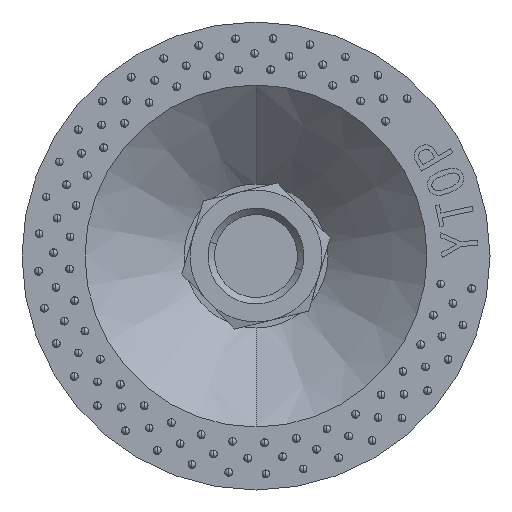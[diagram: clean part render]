
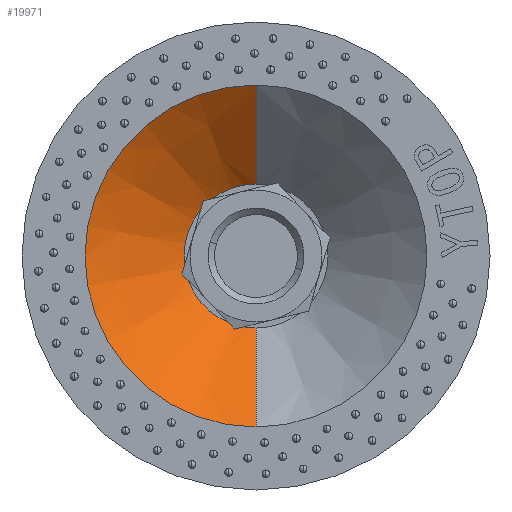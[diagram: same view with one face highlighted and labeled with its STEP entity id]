
A CAD part, front view. The second image highlights one B-rep face of the part: STEP entity #19971.
In plain terms, the highlighted conical face has half-angle 49.079 degrees and reference radius 28.5 mm.
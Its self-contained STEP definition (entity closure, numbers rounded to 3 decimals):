
#63 = VECTOR ( 'NONE', #19514, 1000. ) ;
#176 = VERTEX_POINT ( 'NONE', #20782 ) ;
#1049 = EDGE_CURVE ( 'NONE', #2098, #11898, #10328, .T. ) ;
#2098 = VERTEX_POINT ( 'NONE', #8795 ) ;
#3441 = DIRECTION ( 'NONE',  ( 0., 0., -1. ) ) ;
#3760 = DIRECTION ( 'NONE',  ( 0., 1., 0. ) ) ;
#4547 = ORIENTED_EDGE ( 'NONE', *, *, #13815, .T. ) ;
#4997 = DIRECTION ( 'NONE',  ( 0., -1., 0. ) ) ;
#6059 = CARTESIAN_POINT ( 'NONE',  ( 0., 19.9, 12. ) ) ;
#6289 = CARTESIAN_POINT ( 'NONE',  ( 0., 5.597, 28.5 ) ) ;
#6970 = AXIS2_PLACEMENT_3D ( 'NONE', #20204, #18381, #15266 ) ;
#6994 = AXIS2_PLACEMENT_3D ( 'NONE', #18228, #3760, #15060 ) ;
#7576 = ORIENTED_EDGE ( 'NONE', *, *, #14533, .F. ) ;
#8005 = CARTESIAN_POINT ( 'NONE',  ( 0., 5.597, 0. ) ) ;
#8669 = CARTESIAN_POINT ( 'NONE',  ( 0., 5.597, 28.5 ) ) ;
#8795 = CARTESIAN_POINT ( 'NONE',  ( 0., 19.9, -12. ) ) ;
#8873 = CIRCLE ( 'NONE', #6994, 28.5 ) ;
#9391 = VECTOR ( 'NONE', #19956, 1000. ) ;
#10328 = CIRCLE ( 'NONE', #6970, 12. ) ;
#10390 = LINE ( 'NONE', #14566, #63 ) ;
#11898 = VERTEX_POINT ( 'NONE', #6059 ) ;
#13242 = CONICAL_SURFACE ( 'NONE', #19160, 28.5, 0.857 ) ;
#13443 = LINE ( 'NONE', #8669, #9391 ) ;
#13815 = EDGE_CURVE ( 'NONE', #11898, #20734, #13443, .T. ) ;
#14444 = EDGE_CURVE ( 'NONE', #2098, #176, #10390, .T. ) ;
#14533 = EDGE_CURVE ( 'NONE', #176, #20734, #8873, .T. ) ;
#14566 = CARTESIAN_POINT ( 'NONE',  ( 0., 5.597, -28.5 ) ) ;
#15060 = DIRECTION ( 'NONE',  ( 0., 0., 1. ) ) ;
#15266 = DIRECTION ( 'NONE',  ( 0., 0., 1. ) ) ;
#15697 = ORIENTED_EDGE ( 'NONE', *, *, #14444, .F. ) ;
#16856 = EDGE_LOOP ( 'NONE', ( #20881, #4547, #7576, #15697 ) ) ;
#17778 = FACE_OUTER_BOUND ( 'NONE', #16856, .T. ) ;
#18228 = CARTESIAN_POINT ( 'NONE',  ( 0., 5.597, 0. ) ) ;
#18381 = DIRECTION ( 'NONE',  ( 0., 1., 0. ) ) ;
#19160 = AXIS2_PLACEMENT_3D ( 'NONE', #8005, #4997, #3441 ) ;
#19514 = DIRECTION ( 'NONE',  ( 0., -0.655, -0.756 ) ) ;
#19956 = DIRECTION ( 'NONE',  ( 0., -0.655, 0.756 ) ) ;
#19971 = ADVANCED_FACE ( 'NONE', ( #17778 ), #13242, .F. ) ;
#20204 = CARTESIAN_POINT ( 'NONE',  ( 0., 19.9, 0. ) ) ;
#20734 = VERTEX_POINT ( 'NONE', #6289 ) ;
#20782 = CARTESIAN_POINT ( 'NONE',  ( 0., 5.597, -28.5 ) ) ;
#20881 = ORIENTED_EDGE ( 'NONE', *, *, #1049, .T. ) ;
